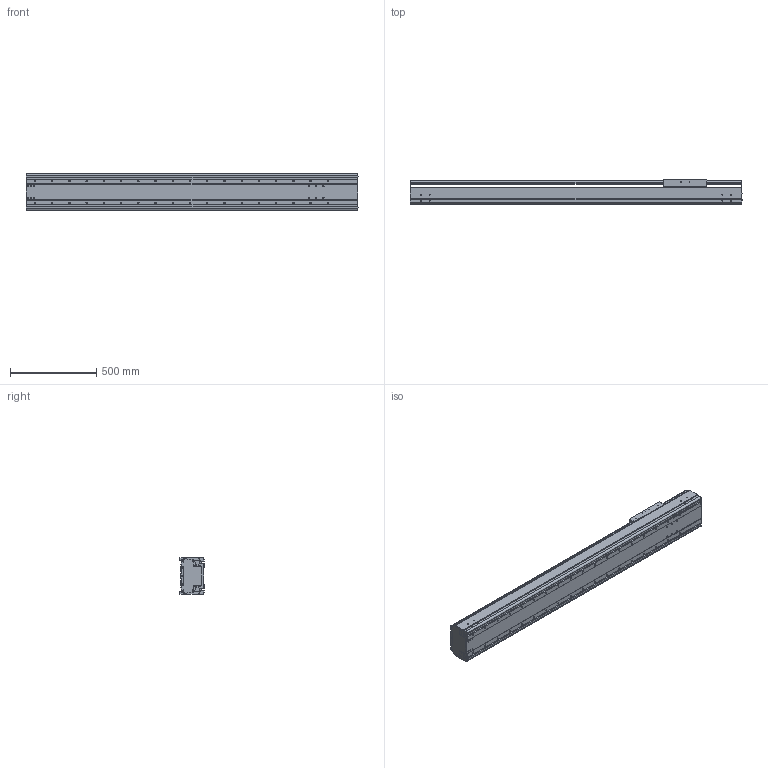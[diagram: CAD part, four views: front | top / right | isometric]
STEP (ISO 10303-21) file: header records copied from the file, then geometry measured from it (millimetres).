
FILE_DESCRIPTION((''),'2;1');
FILE_NAME('BE60J-ST-M_B-E0_IGS_PRT','2017-06-18T',(' '),(''),'PRO/ENGINEER BY PARAMETRIC TECHNOLOGY CORPORATION, 2015030','PRO/ENGINEER BY PARAMETRIC TECHNOLOGY CORPORATION, 2015030','');
FILE_SCHEMA(('CONFIG_CONTROL_DESIGN'));
Length unit declared in the file: millimetre
Products named in the file (1): BE60J-ST-M_B-E0_IGS_PRT
Bounding box: 1927.4 x 140 x 214 mm (x, y, z)
Volume: 14873901.7 mm3; surface area: 3962933.3 mm2
Topology: 2 solids, 28 shells, 1127 faces, 2970 edges, 1914 vertices
Faces by surface type: plane 533, cylinder 494, cone 52, sphere 24, torus 24
Entity records: 35159 total; most frequent: CARTESIAN_POINT 6524, DIRECTION 6144, ORIENTED_EDGE 5740, EDGE_CURVE 2918, AXIS2_PLACEMENT_3D 2208, VERTEX_POINT 1912, VECTOR 1728, LINE 1728
